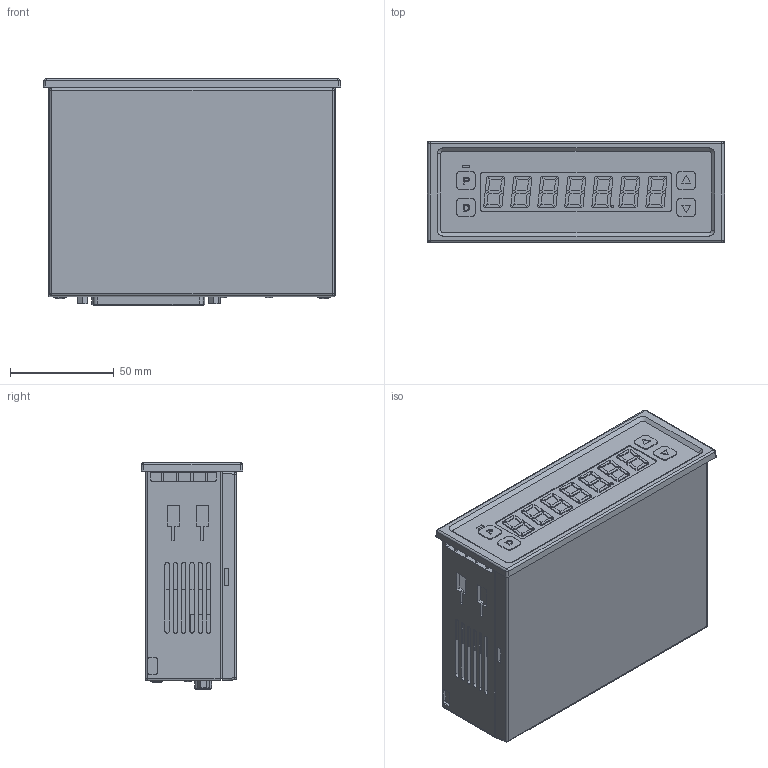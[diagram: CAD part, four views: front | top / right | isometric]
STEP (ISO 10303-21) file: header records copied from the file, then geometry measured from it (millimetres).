
FILE_DESCRIPTION (( 'STEP AP214' ), '1' );
FILE_NAME ('KPS-パラレル出力_Assem1.STEP', '2024-08-19T04:39:09', ( '' ), ( '' ), 'SwSTEP 2.0', 'SolidWorks 2023', '' );
FILE_SCHEMA (( 'AUTOMOTIVE_DESIGN' ));
Length unit declared in the file: millimetre
Products named in the file (8): KPS-パラレル出力_Assem1; バインド頭 M2.5 X6 MM; オムロンXW4A-03C1-H1; D-Subコネクター取付スペーサー; バインド頭Tap M3 X10 MM; D SUB 37P female - FL37S7-K121 (FCT)_裏消し; KPS-パラレル出力_Part1; 8P_Pin
Assembly tree (10 placements, depth 2):
  KPS-パラレル出力_Assem1
    KPS-パラレル出力_Part1
    8P_Pin
    オムロンXW4A-03C1-H1
    バインド頭 M2.5 X6 MM  x2
    バインド頭Tap M3 X10 MM  x2
    D SUB 37P female - FL37S7-K121 (FCT)_裏消し
    D-Subコネクター取付スペーサー  x2
Bounding box: 143 x 49 x 109 mm (x, y, z)
Volume: 556621.2 mm3; surface area: 115831.5 mm2
Topology: 12 solids, 12 shells, 1702 faces, 4380 edges, 2860 vertices
Faces by surface type: plane 1018, cylinder 315, bspline 196, cone 121, torus 34, sphere 18
Entity records: 53737 total; most frequent: CARTESIAN_POINT 14197, ORIENTED_EDGE 8392, DIRECTION 7510, EDGE_CURVE 4196, VECTOR 3008, LINE 3008, VERTEX_POINT 2736, AXIS2_PLACEMENT_3D 2251
